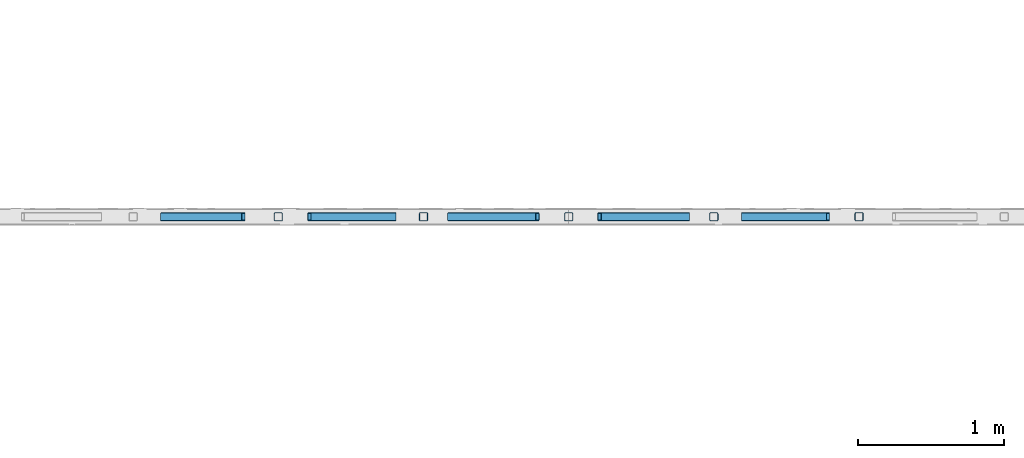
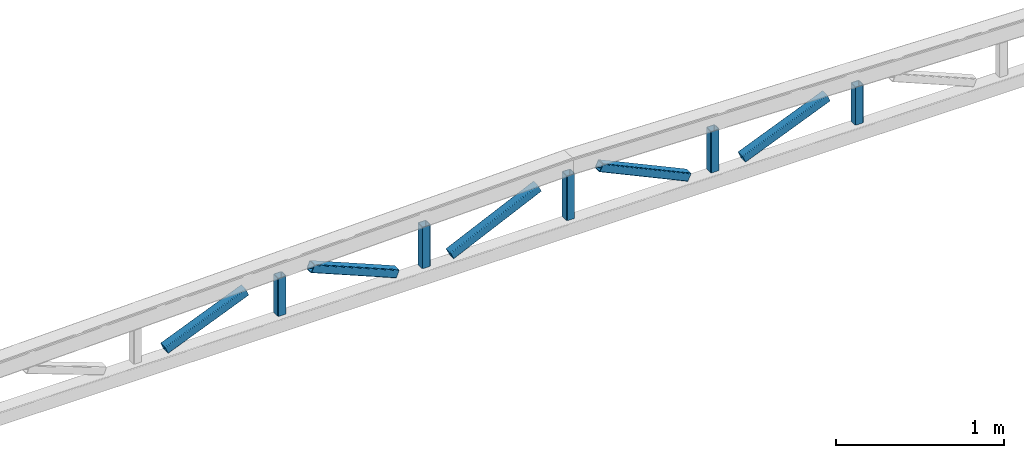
# One storey, part 8 of 12: 10 members, 1 element without a shape of its own.
"""IFC2X3 building model written with IfcOpenShell, lengths in millimetres."""

from ifc_helpers import new_model, entity, si_unit, converted_unit, derived_unit, direction, frame, frame_2d, origin, place, context, subcontext, project, spatial, polyline, circle_curve, parameter, trimmed, segment, composite_curve, outline, extrude, source, transform, mapped, type_object, type_shapes, element, aggregate, save


model = new_model("IFC2X3")

# Units and contexts
model_context = context("Model", 3, precision=0.01, world=origin(), true_north=direction((6.12303176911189e-17, 1.0)))
body_context = subcontext(model_context, "Body", "Model", "MODEL_VIEW")
ifc_project = project(units=[si_unit("LENGTHUNIT", "METRE", prefix="MILLI"), si_unit("AREAUNIT", "SQUARE_METRE"), si_unit("VOLUMEUNIT", "CUBIC_METRE"), converted_unit("PLANEANGLEUNIT", "DEGREE", entity("IfcRatioMeasure", 0.0174532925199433), si_unit("PLANEANGLEUNIT", "RADIAN"), dimensions=[0, 0, 0, 0, 0, 0, 0]), si_unit("MASSUNIT", "GRAM", prefix="KILO"), derived_unit("MASSDENSITYUNIT", [(si_unit("MASSUNIT", "GRAM", prefix="KILO"), 1), (si_unit("LENGTHUNIT", "METRE"), -3)]), si_unit("TIMEUNIT", "SECOND"), si_unit("FREQUENCYUNIT", "HERTZ"), si_unit("THERMODYNAMICTEMPERATUREUNIT", "DEGREE_CELSIUS"), derived_unit("THERMALTRANSMITTANCEUNIT", [(si_unit("MASSUNIT", "GRAM", prefix="KILO"), 1), (si_unit("THERMODYNAMICTEMPERATUREUNIT", "KELVIN"), -1), (si_unit("TIMEUNIT", "SECOND"), -3)]), derived_unit("VOLUMETRICFLOWRATEUNIT", [(si_unit("LENGTHUNIT", "METRE"), 3), (si_unit("TIMEUNIT", "SECOND"), -1)]), si_unit("ELECTRICCURRENTUNIT", "AMPERE"), si_unit("ELECTRICVOLTAGEUNIT", "VOLT"), si_unit("POWERUNIT", "WATT"), si_unit("FORCEUNIT", "NEWTON", prefix="KILO"), si_unit("ILLUMINANCEUNIT", "LUX"), si_unit("LUMINOUSFLUXUNIT", "LUMEN"), si_unit("LUMINOUSINTENSITYUNIT", "CANDELA"), derived_unit("USERDEFINED", [(si_unit("MASSUNIT", "GRAM", prefix="KILO"), -1), (si_unit("LENGTHUNIT", "METRE"), -2), (si_unit("TIMEUNIT", "SECOND"), 3), (si_unit("LUMINOUSFLUXUNIT", "LUMEN"), 1)]), derived_unit("LINEARVELOCITYUNIT", [(si_unit("LENGTHUNIT", "METRE"), 1), (si_unit("TIMEUNIT", "SECOND"), -1)]), si_unit("PRESSUREUNIT", "PASCAL"), derived_unit("USERDEFINED", [(si_unit("LENGTHUNIT", "METRE"), -2), (si_unit("MASSUNIT", "GRAM", prefix="KILO"), 1), (si_unit("TIMEUNIT", "SECOND"), -2)])], contexts=[model_context])

# Site, building, storey
site_placement = place(None, frame((0.0, 0.0, 101000.0)))
site = spatial("IfcSite", under=ifc_project, at=site_placement, Name="Default", CompositionType="ELEMENT")
building_placement = place(site_placement, origin())
building = spatial("IfcBuilding", under=site, at=building_placement, CompositionType="ELEMENT")
storey_placement = place(building_placement, frame((0.0, 0.0, 6025.0)))
storey = spatial("IfcBuildingStorey", under=building, at=storey_placement, Name="03", CompositionType="ELEMENT", Elevation=6024.9999999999)

# Assembly, members
assembly_placement = place(storey_placement, origin())
assembly = element("IfcElementAssembly", 1, at=assembly_placement, inside=storey, Name="Gitterdrager:Standard", ObjectType="Gitterdrager:Standard", AssemblyPlace="NOTDEFINED", PredefinedType="TRUSS")
member_type_1 = type_object("IfcMemberType", Name="60x60x5", PredefinedType="BRACE")
shared_shape_1 = source(origin(), body_context, "Body", "SweptSolid", [
    extrude(outline(composite_curve([segment(trimmed(circle_curve(frame_2d((-20.0, -20.0), x_axis=(1.0, 0.0)), 10.0), [parameter(180.0)], [parameter(270.0)], True, "PARAMETER"), True, "CONTINUOUS"), segment(polyline([(-20.0, -30.0), (20.0, -30.0)]), True, "CONTINUOUS"), segment(trimmed(circle_curve(frame_2d((20.0, -20.0), x_axis=(1.0, 0.0)), 10.0), [parameter(270.0)], [parameter(5.08888749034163e-14)], True, "PARAMETER"), True, "CONTINUOUS"), segment(polyline([(30.0, -20.0), (30.0, 20.0)]), True, "CONTINUOUS"), segment(trimmed(circle_curve(frame_2d((20.0, 20.0), x_axis=(1.0, 0.0)), 10.0), [parameter(360.0)], [parameter(89.9999999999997)], True, "PARAMETER"), True, "CONTINUOUS"), segment(polyline([(20.0, 30.0), (-20.0, 30.0)]), True, "CONTINUOUS"), segment(trimmed(circle_curve(frame_2d((-20.0, 20.0), x_axis=(1.0, 0.0)), 10.0), [parameter(90.0000000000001)], [parameter(180.0)], True, "PARAMETER"), True, "CONTINUOUS"), segment(polyline([(-30.0, 20.0), (-30.0, -20.0)]), True, "CONTINUOUS")], self_intersect=False), holes=[composite_curve([segment(polyline([(20.0, -25.0), (-20.0, -25.0)]), True, "CONTINUOUS"), segment(trimmed(circle_curve(frame_2d((-20.0, -20.0), x_axis=(1.0, 0.0)), 5.0), [parameter(180.0)], [parameter(270.0)], True, "PARAMETER"), False, "CONTINUOUS"), segment(polyline([(-25.0, -20.0), (-25.0, 20.0)]), True, "CONTINUOUS"), segment(trimmed(circle_curve(frame_2d((-20.0, 20.0), x_axis=(1.0, 0.0)), 5.0), [parameter(90.0000000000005)], [parameter(180.0)], True, "PARAMETER"), False, "CONTINUOUS"), segment(polyline([(-20.0, 25.0), (20.0, 25.0)]), True, "CONTINUOUS"), segment(trimmed(circle_curve(frame_2d((20.0, 20.0), x_axis=(1.0, 0.0)), 5.0), [parameter(0.0)], [parameter(90.0000000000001)], True, "PARAMETER"), False, "CONTINUOUS"), segment(polyline([(25.0, 20.0), (25.0, -20.0)]), True, "CONTINUOUS"), segment(trimmed(circle_curve(frame_2d((20.0, -20.0), x_axis=(1.0, 0.0)), 5.0), [parameter(270.0)], [parameter(4.57999874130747e-13)], True, "PARAMETER"), False, "CONTINUOUS")], self_intersect=False)]), frame((-168.190907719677, 0.0, 0.0), z_axis=(1.0, 0.0, 0.0), x_axis=(0.0, -1.0, 0.0)), (0.0, 0.0, 1.0), 324.846388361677),
])
type_shapes(member_type_1, [shared_shape_1])
member_1_placement = place(assembly_placement, frame((17226.2644969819, 38432.1864743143, -110.132847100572), z_axis=(1.0, 0.0, 0.0), x_axis=(0.0, 0.0, 1.0)))
member_1 = element("IfcMember", 2, at=member_1_placement, type_object=member_type_1, Name="Bjelke HUP:60x60x5", ObjectType="60x60x5", context=body_context, shape_type="MappedRepresentation", body=[
    mapped(shared_shape_1, transform((0.0, 0.0, 0.0), scale=1.0)),
])
member_type_2 = type_object("IfcMemberType", Name="60x60x5", PredefinedType="BRACE")
shared_shape_2 = source(origin(), body_context, "Body", "SweptSolid", [
    extrude(outline(composite_curve([segment(trimmed(circle_curve(frame_2d((-20.0, -20.0), x_axis=(1.0, 0.0)), 10.0), [parameter(180.0)], [parameter(270.0)], True, "PARAMETER"), True, "CONTINUOUS"), segment(polyline([(-20.0, -30.0), (20.0, -30.0)]), True, "CONTINUOUS"), segment(trimmed(circle_curve(frame_2d((20.0, -20.0), x_axis=(1.0, 0.0)), 10.0), [parameter(270.0)], [parameter(5.08888749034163e-14)], True, "PARAMETER"), True, "CONTINUOUS"), segment(polyline([(30.0, -20.0), (30.0, 20.0)]), True, "CONTINUOUS"), segment(trimmed(circle_curve(frame_2d((20.0, 20.0), x_axis=(1.0, 0.0)), 10.0), [parameter(360.0)], [parameter(89.9999999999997)], True, "PARAMETER"), True, "CONTINUOUS"), segment(polyline([(20.0, 30.0), (-20.0, 30.0)]), True, "CONTINUOUS"), segment(trimmed(circle_curve(frame_2d((-20.0, 20.0), x_axis=(1.0, 0.0)), 10.0), [parameter(90.0000000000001)], [parameter(180.0)], True, "PARAMETER"), True, "CONTINUOUS"), segment(polyline([(-30.0, 20.0), (-30.0, -20.0)]), True, "CONTINUOUS")], self_intersect=False), holes=[composite_curve([segment(polyline([(20.0, -25.0), (-20.0, -25.0)]), True, "CONTINUOUS"), segment(trimmed(circle_curve(frame_2d((-20.0, -20.0), x_axis=(1.0, 0.0)), 5.0), [parameter(180.0)], [parameter(270.0)], True, "PARAMETER"), False, "CONTINUOUS"), segment(polyline([(-25.0, -20.0), (-25.0, 20.0)]), True, "CONTINUOUS"), segment(trimmed(circle_curve(frame_2d((-20.0, 20.0), x_axis=(1.0, 0.0)), 5.0), [parameter(90.0000000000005)], [parameter(180.0)], True, "PARAMETER"), False, "CONTINUOUS"), segment(polyline([(-20.0, 25.0), (20.0, 25.0)]), True, "CONTINUOUS"), segment(trimmed(circle_curve(frame_2d((20.0, 20.0), x_axis=(1.0, 0.0)), 5.0), [parameter(0.0)], [parameter(90.0000000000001)], True, "PARAMETER"), False, "CONTINUOUS"), segment(polyline([(25.0, 20.0), (25.0, -20.0)]), True, "CONTINUOUS"), segment(trimmed(circle_curve(frame_2d((20.0, -20.0), x_axis=(1.0, 0.0)), 5.0), [parameter(270.0)], [parameter(4.57999874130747e-13)], True, "PARAMETER"), False, "CONTINUOUS")], self_intersect=False)]), frame((-155.792423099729, 0.0, 0.0), z_axis=(1.0, 0.0, 0.0), x_axis=(0.0, -1.0, 0.0)), (0.0, 0.0, 1.0), 300.049419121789),
])
type_shapes(member_type_2, [shared_shape_2])
member_2_placement = place(assembly_placement, frame((16232.9311636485, 38432.1864743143, -122.531331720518), z_axis=(1.0, 0.0, 0.0), x_axis=(0.0, 0.0, 1.0)))
member_2 = element("IfcMember", 3, at=member_2_placement, type_object=member_type_2, Name="Bjelke HUP:60x60x5", ObjectType="60x60x5", context=body_context, shape_type="MappedRepresentation", body=[
    mapped(shared_shape_2, transform((0.0, 0.0, 0.0), scale=1.0)),
])
member_3_placement = place(assembly_placement, frame((18219.5978303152, 38432.1864743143, -122.531331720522), z_axis=(1.0, 0.0, 0.0), x_axis=(0.0, 0.0, 1.0)))
member_3 = element("IfcMember", 4, at=member_3_placement, type_object=member_type_2, Name="Bjelke HUP:60x60x5", ObjectType="60x60x5", context=body_context, shape_type="MappedRepresentation", body=[
    mapped(shared_shape_2, transform((0.0, 0.0, 0.0), scale=1.0)),
])
member_type_3 = type_object("IfcMemberType", Name="60x60x5", PredefinedType="BRACE")
shared_shape_3 = source(origin(), body_context, "Body", "SweptSolid", [
    extrude(outline(composite_curve([segment(trimmed(circle_curve(frame_2d((-20.0, -20.0), x_axis=(1.0, 0.0)), 10.0), [parameter(180.0)], [parameter(270.0)], True, "PARAMETER"), True, "CONTINUOUS"), segment(polyline([(-20.0, -30.0), (20.0, -30.0)]), True, "CONTINUOUS"), segment(trimmed(circle_curve(frame_2d((20.0, -20.0), x_axis=(1.0, 0.0)), 10.0), [parameter(270.0)], [parameter(5.08888749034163e-14)], True, "PARAMETER"), True, "CONTINUOUS"), segment(polyline([(30.0, -20.0), (30.0, 20.0)]), True, "CONTINUOUS"), segment(trimmed(circle_curve(frame_2d((20.0, 20.0), x_axis=(1.0, 0.0)), 10.0), [parameter(360.0)], [parameter(89.9999999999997)], True, "PARAMETER"), True, "CONTINUOUS"), segment(polyline([(20.0, 30.0), (-20.0, 30.0)]), True, "CONTINUOUS"), segment(trimmed(circle_curve(frame_2d((-20.0, 20.0), x_axis=(1.0, 0.0)), 10.0), [parameter(90.0000000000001)], [parameter(180.0)], True, "PARAMETER"), True, "CONTINUOUS"), segment(polyline([(-30.0, 20.0), (-30.0, -20.0)]), True, "CONTINUOUS")], self_intersect=False), holes=[composite_curve([segment(polyline([(20.0, -25.0), (-20.0, -25.0)]), True, "CONTINUOUS"), segment(trimmed(circle_curve(frame_2d((-20.0, -20.0), x_axis=(1.0, 0.0)), 5.0), [parameter(180.0)], [parameter(270.0)], True, "PARAMETER"), False, "CONTINUOUS"), segment(polyline([(-25.0, -20.0), (-25.0, 20.0)]), True, "CONTINUOUS"), segment(trimmed(circle_curve(frame_2d((-20.0, 20.0), x_axis=(1.0, 0.0)), 5.0), [parameter(90.0000000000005)], [parameter(180.0)], True, "PARAMETER"), False, "CONTINUOUS"), segment(polyline([(-20.0, 25.0), (20.0, 25.0)]), True, "CONTINUOUS"), segment(trimmed(circle_curve(frame_2d((20.0, 20.0), x_axis=(1.0, 0.0)), 5.0), [parameter(0.0)], [parameter(90.0000000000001)], True, "PARAMETER"), False, "CONTINUOUS"), segment(polyline([(25.0, 20.0), (25.0, -20.0)]), True, "CONTINUOUS"), segment(trimmed(circle_curve(frame_2d((20.0, -20.0), x_axis=(1.0, 0.0)), 5.0), [parameter(270.0)], [parameter(4.57999874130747e-13)], True, "PARAMETER"), False, "CONTINUOUS")], self_intersect=False)]), frame((-143.393968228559, 0.0, 0.0), z_axis=(1.0, 0.0, 0.0), x_axis=(0.0, -1.0, 0.0)), (0.0, 0.0, 1.0), 275.252509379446),
])
type_shapes(member_type_3, [shared_shape_3])
member_4_placement = place(assembly_placement, frame((15239.6002137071, 38432.1864743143, -134.929786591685), z_axis=(1.0, 0.0, 0.0), x_axis=(0.0, 0.0, 1.0)))
member_4 = element("IfcMember", 5, at=member_4_placement, type_object=member_type_3, Name="Bjelke HUP:60x60x5", ObjectType="60x60x5", context=body_context, shape_type="MappedRepresentation", body=[
    mapped(shared_shape_3, transform((0.0, 0.0, 0.0), scale=1.0)),
])
member_type_4 = type_object("IfcMemberType", Name="60x60x5", PredefinedType="BRACE")
shared_shape_4 = source(origin(), body_context, "Body", "SweptSolid", [
    extrude(outline(composite_curve([segment(trimmed(circle_curve(frame_2d((-20.0, -20.0), x_axis=(1.0, 0.0)), 10.0), [parameter(180.0)], [parameter(270.0)], True, "PARAMETER"), True, "CONTINUOUS"), segment(polyline([(-20.0, -30.0), (20.0, -30.0)]), True, "CONTINUOUS"), segment(trimmed(circle_curve(frame_2d((20.0, -20.0), x_axis=(1.0, 0.0)), 10.0), [parameter(270.0)], [parameter(5.08888749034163e-14)], True, "PARAMETER"), True, "CONTINUOUS"), segment(polyline([(30.0, -20.0), (30.0, 20.0)]), True, "CONTINUOUS"), segment(trimmed(circle_curve(frame_2d((20.0, 20.0), x_axis=(1.0, 0.0)), 10.0), [parameter(360.0)], [parameter(89.9999999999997)], True, "PARAMETER"), True, "CONTINUOUS"), segment(polyline([(20.0, 30.0), (-20.0, 30.0)]), True, "CONTINUOUS"), segment(trimmed(circle_curve(frame_2d((-20.0, 20.0), x_axis=(1.0, 0.0)), 10.0), [parameter(90.0000000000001)], [parameter(180.0)], True, "PARAMETER"), True, "CONTINUOUS"), segment(polyline([(-30.0, 20.0), (-30.0, -20.0)]), True, "CONTINUOUS")], self_intersect=False), holes=[composite_curve([segment(polyline([(20.0, -25.0), (-20.0, -25.0)]), True, "CONTINUOUS"), segment(trimmed(circle_curve(frame_2d((-20.0, -20.0), x_axis=(1.0, 0.0)), 5.0), [parameter(180.0)], [parameter(270.0)], True, "PARAMETER"), False, "CONTINUOUS"), segment(polyline([(-25.0, -20.0), (-25.0, 20.0)]), True, "CONTINUOUS"), segment(trimmed(circle_curve(frame_2d((-20.0, 20.0), x_axis=(1.0, 0.0)), 5.0), [parameter(90.0000000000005)], [parameter(180.0)], True, "PARAMETER"), False, "CONTINUOUS"), segment(polyline([(-20.0, 25.0), (20.0, 25.0)]), True, "CONTINUOUS"), segment(trimmed(circle_curve(frame_2d((20.0, 20.0), x_axis=(1.0, 0.0)), 5.0), [parameter(0.0)], [parameter(90.0000000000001)], True, "PARAMETER"), False, "CONTINUOUS"), segment(polyline([(25.0, 20.0), (25.0, -20.0)]), True, "CONTINUOUS"), segment(trimmed(circle_curve(frame_2d((20.0, -20.0), x_axis=(1.0, 0.0)), 5.0), [parameter(270.0)], [parameter(4.57999874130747e-13)], True, "PARAMETER"), False, "CONTINUOUS")], self_intersect=False)]), frame((-143.393938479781, 0.0, 0.0), z_axis=(1.0, 0.0, 0.0), x_axis=(0.0, -1.0, 0.0)), (0.0, 0.0, 1.0), 275.252449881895),
])
type_shapes(member_type_4, [shared_shape_4])
member_5_placement = place(assembly_placement, frame((19212.9311636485, 38432.1864743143, -134.929816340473), z_axis=(1.0, 0.0, 0.0), x_axis=(0.0, 0.0, 1.0)))
member_5 = element("IfcMember", 6, at=member_5_placement, type_object=member_type_4, Name="Bjelke HUP:60x60x5", ObjectType="60x60x5", context=body_context, shape_type="MappedRepresentation", body=[
    mapped(shared_shape_4, transform((0.0, 0.0, 0.0), scale=1.0)),
])
member_type_5 = type_object("IfcMemberType", Name="60x60x5", PredefinedType="BRACE")
shared_shape_5 = source(origin(), body_context, "Body", "SweptSolid", [
    extrude(outline(composite_curve([segment(trimmed(circle_curve(frame_2d((-20.0, -20.0), x_axis=(1.0, 0.0)), 10.0), [parameter(180.0)], [parameter(270.0)], True, "PARAMETER"), True, "CONTINUOUS"), segment(polyline([(-20.0, -30.0), (20.0, -30.0)]), True, "CONTINUOUS"), segment(trimmed(circle_curve(frame_2d((20.0, -20.0), x_axis=(1.0, 0.0)), 10.0), [parameter(270.0)], [parameter(5.08888749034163e-14)], True, "PARAMETER"), True, "CONTINUOUS"), segment(polyline([(30.0, -20.0), (30.0, 20.0)]), True, "CONTINUOUS"), segment(trimmed(circle_curve(frame_2d((20.0, 20.0), x_axis=(1.0, 0.0)), 10.0), [parameter(360.0)], [parameter(89.9999999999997)], True, "PARAMETER"), True, "CONTINUOUS"), segment(polyline([(20.0, 30.0), (-20.0, 30.0)]), True, "CONTINUOUS"), segment(trimmed(circle_curve(frame_2d((-20.0, 20.0), x_axis=(1.0, 0.0)), 10.0), [parameter(90.0000000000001)], [parameter(180.0)], True, "PARAMETER"), True, "CONTINUOUS"), segment(polyline([(-30.0, 20.0), (-30.0, -20.0)]), True, "CONTINUOUS")], self_intersect=False), holes=[composite_curve([segment(polyline([(20.0, -25.0), (-20.0, -25.0)]), True, "CONTINUOUS"), segment(trimmed(circle_curve(frame_2d((-20.0, -20.0), x_axis=(1.0, 0.0)), 5.0), [parameter(180.0)], [parameter(270.0)], True, "PARAMETER"), False, "CONTINUOUS"), segment(polyline([(-25.0, -20.0), (-25.0, 20.0)]), True, "CONTINUOUS"), segment(trimmed(circle_curve(frame_2d((-20.0, 20.0), x_axis=(1.0, 0.0)), 5.0), [parameter(90.0000000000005)], [parameter(180.0)], True, "PARAMETER"), False, "CONTINUOUS"), segment(polyline([(-20.0, 25.0), (20.0, 25.0)]), True, "CONTINUOUS"), segment(trimmed(circle_curve(frame_2d((20.0, 20.0), x_axis=(1.0, 0.0)), 5.0), [parameter(0.0)], [parameter(90.0000000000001)], True, "PARAMETER"), False, "CONTINUOUS"), segment(polyline([(25.0, 20.0), (25.0, -20.0)]), True, "CONTINUOUS"), segment(trimmed(circle_curve(frame_2d((20.0, -20.0), x_axis=(1.0, 0.0)), 5.0), [parameter(270.0)], [parameter(4.57999874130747e-13)], True, "PARAMETER"), False, "CONTINUOUS")], self_intersect=False)]), frame((-351.247436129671, 0.0, 0.0), z_axis=(1.0, 0.0, 0.0), x_axis=(0.0, -1.0, 0.0)), (0.0, 0.0, 1.0), 664.357457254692),
])
type_shapes(member_type_5, [shared_shape_5])
member_6_placement = place(assembly_placement, frame((16728.5730107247, 38432.1864743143, -110.158430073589), z_axis=(0.422233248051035, 0.0, -0.906487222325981), x_axis=(0.906487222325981, 0.0, 0.422233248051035)))
member_6 = element("IfcMember", 7, at=member_6_placement, type_object=member_type_5, Name="Bjelke HUP:60x60x5", ObjectType="60x60x5", context=body_context, shape_type="MappedRepresentation", body=[
    mapped(shared_shape_5, transform((0.0, 0.0, 0.0), scale=1.0)),
])
member_type_6 = type_object("IfcMemberType", Name="60x60x5", PredefinedType="BRACE")
shared_shape_6 = source(origin(), body_context, "Body", "SweptSolid", [
    extrude(outline(composite_curve([segment(trimmed(circle_curve(frame_2d((-20.0, -20.0), x_axis=(1.0, 0.0)), 10.0), [parameter(180.0)], [parameter(270.0)], True, "PARAMETER"), True, "CONTINUOUS"), segment(polyline([(-20.0, -30.0), (20.0, -30.0)]), True, "CONTINUOUS"), segment(trimmed(circle_curve(frame_2d((20.0, -20.0), x_axis=(1.0, 0.0)), 10.0), [parameter(270.0)], [parameter(5.08888749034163e-14)], True, "PARAMETER"), True, "CONTINUOUS"), segment(polyline([(30.0, -20.0), (30.0, 20.0)]), True, "CONTINUOUS"), segment(trimmed(circle_curve(frame_2d((20.0, 20.0), x_axis=(1.0, 0.0)), 10.0), [parameter(360.0)], [parameter(89.9999999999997)], True, "PARAMETER"), True, "CONTINUOUS"), segment(polyline([(20.0, 30.0), (-20.0, 30.0)]), True, "CONTINUOUS"), segment(trimmed(circle_curve(frame_2d((-20.0, 20.0), x_axis=(1.0, 0.0)), 10.0), [parameter(90.0000000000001)], [parameter(180.0)], True, "PARAMETER"), True, "CONTINUOUS"), segment(polyline([(-30.0, 20.0), (-30.0, -20.0)]), True, "CONTINUOUS")], self_intersect=False), holes=[composite_curve([segment(polyline([(20.0, -25.0), (-20.0, -25.0)]), True, "CONTINUOUS"), segment(trimmed(circle_curve(frame_2d((-20.0, -20.0), x_axis=(1.0, 0.0)), 5.0), [parameter(180.0)], [parameter(270.0)], True, "PARAMETER"), False, "CONTINUOUS"), segment(polyline([(-25.0, -20.0), (-25.0, 20.0)]), True, "CONTINUOUS"), segment(trimmed(circle_curve(frame_2d((-20.0, 20.0), x_axis=(1.0, 0.0)), 5.0), [parameter(90.0000000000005)], [parameter(180.0)], True, "PARAMETER"), False, "CONTINUOUS"), segment(polyline([(-20.0, 25.0), (20.0, 25.0)]), True, "CONTINUOUS"), segment(trimmed(circle_curve(frame_2d((20.0, 20.0), x_axis=(1.0, 0.0)), 5.0), [parameter(0.0)], [parameter(90.0000000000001)], True, "PARAMETER"), False, "CONTINUOUS"), segment(polyline([(25.0, 20.0), (25.0, -20.0)]), True, "CONTINUOUS"), segment(trimmed(circle_curve(frame_2d((20.0, -20.0), x_axis=(1.0, 0.0)), 5.0), [parameter(270.0)], [parameter(4.57999874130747e-13)], True, "PARAMETER"), False, "CONTINUOUS")], self_intersect=False)]), frame((-322.27532019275, 0.0, 0.0), z_axis=(1.0, 0.0, 0.0), x_axis=(0.0, -1.0, 0.0)), (0.0, 0.0, 1.0), 600.830243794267),
])
type_shapes(member_type_6, [shared_shape_6])
member_7_placement = place(assembly_placement, frame((14742.9323553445, 38432.1864743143, -134.929786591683), z_axis=(0.383266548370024, 0.0, -0.923637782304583), x_axis=(0.923637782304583, 0.0, 0.383266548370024)))
member_7 = element("IfcMember", 8, at=member_7_placement, type_object=member_type_6, Name="Bjelke HUP:60x60x5", ObjectType="60x60x5", context=body_context, shape_type="MappedRepresentation", body=[
    mapped(shared_shape_6, transform((0.0, 0.0, 0.0), scale=1.0)),
])
member_type_7 = type_object("IfcMemberType", Name="60x60x5", PredefinedType="BRACE")
shared_shape_7 = source(origin(), body_context, "Body", "SweptSolid", [
    extrude(outline(composite_curve([segment(trimmed(circle_curve(frame_2d((-20.0, -20.0), x_axis=(1.0, 0.0)), 10.0), [parameter(180.0)], [parameter(270.0)], True, "PARAMETER"), True, "CONTINUOUS"), segment(polyline([(-20.0, -30.0), (20.0, -30.0)]), True, "CONTINUOUS"), segment(trimmed(circle_curve(frame_2d((20.0, -20.0), x_axis=(1.0, 0.0)), 10.0), [parameter(270.0)], [parameter(5.08888749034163e-14)], True, "PARAMETER"), True, "CONTINUOUS"), segment(polyline([(30.0, -20.0), (30.0, 20.0)]), True, "CONTINUOUS"), segment(trimmed(circle_curve(frame_2d((20.0, 20.0), x_axis=(1.0, 0.0)), 10.0), [parameter(360.0)], [parameter(89.9999999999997)], True, "PARAMETER"), True, "CONTINUOUS"), segment(polyline([(20.0, 30.0), (-20.0, 30.0)]), True, "CONTINUOUS"), segment(trimmed(circle_curve(frame_2d((-20.0, 20.0), x_axis=(1.0, 0.0)), 10.0), [parameter(90.0000000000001)], [parameter(180.0)], True, "PARAMETER"), True, "CONTINUOUS"), segment(polyline([(-30.0, 20.0), (-30.0, -20.0)]), True, "CONTINUOUS")], self_intersect=False), holes=[composite_curve([segment(polyline([(20.0, -25.0), (-20.0, -25.0)]), True, "CONTINUOUS"), segment(trimmed(circle_curve(frame_2d((-20.0, -20.0), x_axis=(1.0, 0.0)), 5.0), [parameter(180.0)], [parameter(270.0)], True, "PARAMETER"), False, "CONTINUOUS"), segment(polyline([(-25.0, -20.0), (-25.0, 20.0)]), True, "CONTINUOUS"), segment(trimmed(circle_curve(frame_2d((-20.0, 20.0), x_axis=(1.0, 0.0)), 5.0), [parameter(90.0000000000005)], [parameter(180.0)], True, "PARAMETER"), False, "CONTINUOUS"), segment(polyline([(-20.0, 25.0), (20.0, 25.0)]), True, "CONTINUOUS"), segment(trimmed(circle_curve(frame_2d((20.0, 20.0), x_axis=(1.0, 0.0)), 5.0), [parameter(0.0)], [parameter(90.0000000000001)], True, "PARAMETER"), False, "CONTINUOUS"), segment(polyline([(25.0, 20.0), (25.0, -20.0)]), True, "CONTINUOUS"), segment(trimmed(circle_curve(frame_2d((20.0, -20.0), x_axis=(1.0, 0.0)), 5.0), [parameter(270.0)], [parameter(4.57999874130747e-13)], True, "PARAMETER"), False, "CONTINUOUS")], self_intersect=False)]), frame((-307.939240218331, 0.0, 0.0), z_axis=(1.0, 0.0, 0.0), x_axis=(0.0, -1.0, 0.0)), (0.0, 0.0, 1.0), 630.213240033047),
])
type_shapes(member_type_7, [shared_shape_7])
member_8_placement = place(assembly_placement, frame((15736.2656886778, 38432.1864743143, -134.929786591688), z_axis=(-0.383268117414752, 0.0, -0.923637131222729), x_axis=(0.923637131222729, 0.0, -0.383268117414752)))
member_8 = element("IfcMember", 9, at=member_8_placement, type_object=member_type_7, Name="Bjelke HUP:60x60x5", ObjectType="60x60x5", context=body_context, shape_type="MappedRepresentation", body=[
    mapped(shared_shape_7, transform((0.0, 0.0, 0.0), scale=1.0)),
])
member_type_8 = type_object("IfcMemberType", Name="60x60x5", PredefinedType="BRACE")
shared_shape_8 = source(origin(), body_context, "Body", "SweptSolid", [
    extrude(outline(composite_curve([segment(trimmed(circle_curve(frame_2d((-20.0, -20.0), x_axis=(1.0, 0.0)), 10.0), [parameter(180.0)], [parameter(270.0)], True, "PARAMETER"), True, "CONTINUOUS"), segment(polyline([(-20.0, -30.0), (20.0, -30.0)]), True, "CONTINUOUS"), segment(trimmed(circle_curve(frame_2d((20.0, -20.0), x_axis=(1.0, 0.0)), 10.0), [parameter(270.0)], [parameter(5.08888749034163e-14)], True, "PARAMETER"), True, "CONTINUOUS"), segment(polyline([(30.0, -20.0), (30.0, 20.0)]), True, "CONTINUOUS"), segment(trimmed(circle_curve(frame_2d((20.0, 20.0), x_axis=(1.0, 0.0)), 10.0), [parameter(360.0)], [parameter(89.9999999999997)], True, "PARAMETER"), True, "CONTINUOUS"), segment(polyline([(20.0, 30.0), (-20.0, 30.0)]), True, "CONTINUOUS"), segment(trimmed(circle_curve(frame_2d((-20.0, 20.0), x_axis=(1.0, 0.0)), 10.0), [parameter(90.0000000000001)], [parameter(180.0)], True, "PARAMETER"), True, "CONTINUOUS"), segment(polyline([(-30.0, 20.0), (-30.0, -20.0)]), True, "CONTINUOUS")], self_intersect=False), holes=[composite_curve([segment(polyline([(20.0, -25.0), (-20.0, -25.0)]), True, "CONTINUOUS"), segment(trimmed(circle_curve(frame_2d((-20.0, -20.0), x_axis=(1.0, 0.0)), 5.0), [parameter(180.0)], [parameter(270.0)], True, "PARAMETER"), False, "CONTINUOUS"), segment(polyline([(-25.0, -20.0), (-25.0, 20.0)]), True, "CONTINUOUS"), segment(trimmed(circle_curve(frame_2d((-20.0, 20.0), x_axis=(1.0, 0.0)), 5.0), [parameter(90.0000000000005)], [parameter(180.0)], True, "PARAMETER"), False, "CONTINUOUS"), segment(polyline([(-20.0, 25.0), (20.0, 25.0)]), True, "CONTINUOUS"), segment(trimmed(circle_curve(frame_2d((20.0, 20.0), x_axis=(1.0, 0.0)), 5.0), [parameter(0.0)], [parameter(90.0000000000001)], True, "PARAMETER"), False, "CONTINUOUS"), segment(polyline([(25.0, 20.0), (25.0, -20.0)]), True, "CONTINUOUS"), segment(trimmed(circle_curve(frame_2d((20.0, -20.0), x_axis=(1.0, 0.0)), 5.0), [parameter(270.0)], [parameter(4.57999874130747e-13)], True, "PARAMETER"), False, "CONTINUOUS")], self_intersect=False)]), frame((-314.375226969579, 0.0, 0.0), z_axis=(1.0, 0.0, 0.0), x_axis=(0.0, -1.0, 0.0)), (0.0, 0.0, 1.0), 666.812434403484),
])
type_shapes(member_type_8, [shared_shape_8])
member_9_placement = place(assembly_placement, frame((17721.906344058, 38432.1864743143, -110.158430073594), z_axis=(-0.420802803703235, 0.0, -0.907152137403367), x_axis=(0.907152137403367, 0.0, -0.420802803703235)))
member_9 = element("IfcMember", 10, at=member_9_placement, type_object=member_type_8, Name="Bjelke HUP:60x60x5", ObjectType="60x60x5", context=body_context, shape_type="MappedRepresentation", body=[
    mapped(shared_shape_8, transform((0.0, 0.0, 0.0), scale=1.0)),
])
member_type_9 = type_object("IfcMemberType", Name="60x60x5", PredefinedType="BRACE")
shared_shape_9 = source(origin(), body_context, "Body", "SweptSolid", [
    extrude(outline(composite_curve([segment(trimmed(circle_curve(frame_2d((-20.0, -20.0), x_axis=(1.0, 0.0)), 10.0), [parameter(180.0)], [parameter(270.0)], True, "PARAMETER"), True, "CONTINUOUS"), segment(polyline([(-20.0, -30.0), (20.0, -30.0)]), True, "CONTINUOUS"), segment(trimmed(circle_curve(frame_2d((20.0, -20.0), x_axis=(1.0, 0.0)), 10.0), [parameter(270.0)], [parameter(5.08888749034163e-14)], True, "PARAMETER"), True, "CONTINUOUS"), segment(polyline([(30.0, -20.0), (30.0, 20.0)]), True, "CONTINUOUS"), segment(trimmed(circle_curve(frame_2d((20.0, 20.0), x_axis=(1.0, 0.0)), 10.0), [parameter(360.0)], [parameter(89.9999999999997)], True, "PARAMETER"), True, "CONTINUOUS"), segment(polyline([(20.0, 30.0), (-20.0, 30.0)]), True, "CONTINUOUS"), segment(trimmed(circle_curve(frame_2d((-20.0, 20.0), x_axis=(1.0, 0.0)), 10.0), [parameter(90.0000000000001)], [parameter(180.0)], True, "PARAMETER"), True, "CONTINUOUS"), segment(polyline([(-30.0, 20.0), (-30.0, -20.0)]), True, "CONTINUOUS")], self_intersect=False), holes=[composite_curve([segment(polyline([(20.0, -25.0), (-20.0, -25.0)]), True, "CONTINUOUS"), segment(trimmed(circle_curve(frame_2d((-20.0, -20.0), x_axis=(1.0, 0.0)), 5.0), [parameter(180.0)], [parameter(270.0)], True, "PARAMETER"), False, "CONTINUOUS"), segment(polyline([(-25.0, -20.0), (-25.0, 20.0)]), True, "CONTINUOUS"), segment(trimmed(circle_curve(frame_2d((-20.0, 20.0), x_axis=(1.0, 0.0)), 5.0), [parameter(90.0000000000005)], [parameter(180.0)], True, "PARAMETER"), False, "CONTINUOUS"), segment(polyline([(-20.0, 25.0), (20.0, 25.0)]), True, "CONTINUOUS"), segment(trimmed(circle_curve(frame_2d((20.0, 20.0), x_axis=(1.0, 0.0)), 5.0), [parameter(0.0)], [parameter(90.0000000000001)], True, "PARAMETER"), False, "CONTINUOUS"), segment(polyline([(25.0, 20.0), (25.0, -20.0)]), True, "CONTINUOUS"), segment(trimmed(circle_curve(frame_2d((20.0, -20.0), x_axis=(1.0, 0.0)), 5.0), [parameter(270.0)], [parameter(4.57999874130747e-13)], True, "PARAMETER"), False, "CONTINUOUS")], self_intersect=False)]), frame((-322.274622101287, 0.0, 0.0), z_axis=(1.0, 0.0, 0.0), x_axis=(0.0, -1.0, 0.0)), (0.0, 0.0, 1.0), 630.214484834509),
])
type_shapes(member_type_9, [shared_shape_9])
member_10_placement = place(assembly_placement, frame((18716.2644969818, 38432.1864743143, -134.929816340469), z_axis=(0.383267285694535, 0.0, -0.923637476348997), x_axis=(0.923637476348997, 0.0, 0.383267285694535)))
member_10 = element("IfcMember", 11, at=member_10_placement, type_object=member_type_9, Name="Bjelke HUP:60x60x5", ObjectType="60x60x5", context=body_context, shape_type="MappedRepresentation", body=[
    mapped(shared_shape_9, transform((0.0, 0.0, 0.0), scale=1.0)),
])
aggregate(assembly, [member_1, member_2, member_4, member_3, member_5, member_6, member_7, member_8, member_9, member_10])

save(model, "model.ifc")
